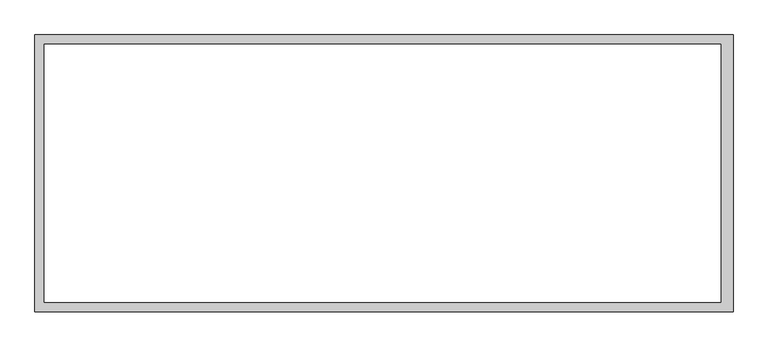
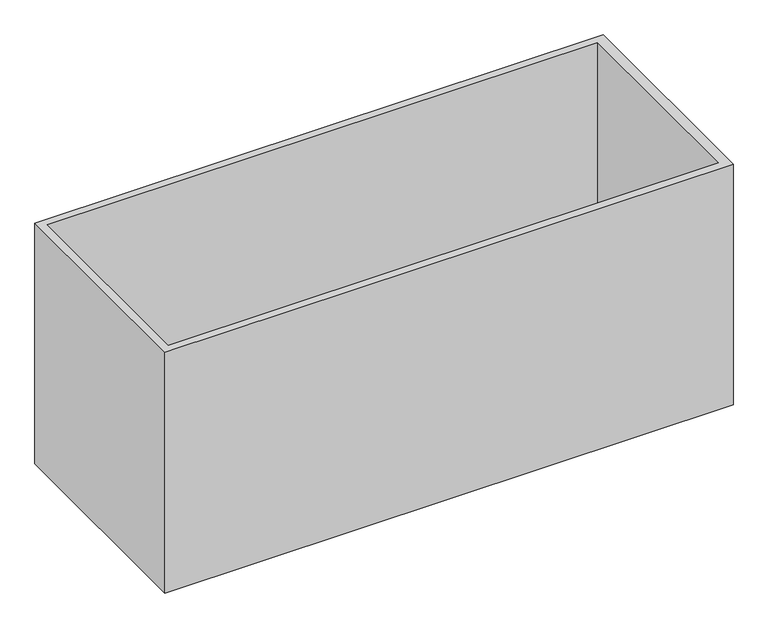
"""IFC4 building model written with IfcOpenShell, lengths in millimetres: beam geometry, Insulation_config6 : Insulation_config6."""

from ifc_helpers import new_model, si_unit, frame, origin, place, context, project, spatial, polyline, outline, extrude, source, transform, mapped, element, save


def beam_eed5193a(model_context):
    return source(origin(), model_context, "Body", "SweptSolid", [
        extrude(outline(polyline([(1601.3840799, 2778.9580405), (7438.3840799, 2778.9580405), (7438.3840799, 465.9580405), (1601.3840799, 465.9580405), (1601.3840799, 2778.9580405)]), holes=[polyline([(7334.3840799, 545.9580405), (7334.3840799, 2698.9580405), (1681.3840799, 2698.9580405), (1681.3840799, 545.9580405), (7334.3840799, 545.9580405)])]), frame((0.0, 0.0, 424.0), z_axis=(0.0, 0.0, 1.0), x_axis=(1.0, 0.0, 0.0)), (0.0, 0.0, 1.0), 2616.0),
    ])


if __name__ == "__main__":
    model = new_model("IFC4")
    model_context = context("Model", 3, world=origin())
    ifc_project = project(units=[si_unit("LENGTHUNIT", "METRE", prefix="MILLI")], contexts=[model_context])
    site = spatial("IfcSite", under=ifc_project)
    building = spatial("IfcBuilding", under=site)
    placement = place(None, origin())
    beam_shape = beam_eed5193a(model_context)
    element("IfcBeam", 1, ObjectType="Insulation_config6 : Insulation_config6", at=placement, inside=building, context=model_context, shape_type="MappedRepresentation", body=[
        mapped(beam_shape, transform((0.0, 0.0, 0.0), x_axis=(1.0, 0.0, 0.0), y_axis=(0.0, 1.0, 0.0), z_axis=(0.0, 0.0, 1.0))),
    ])
    save(model, "model.ifc")
